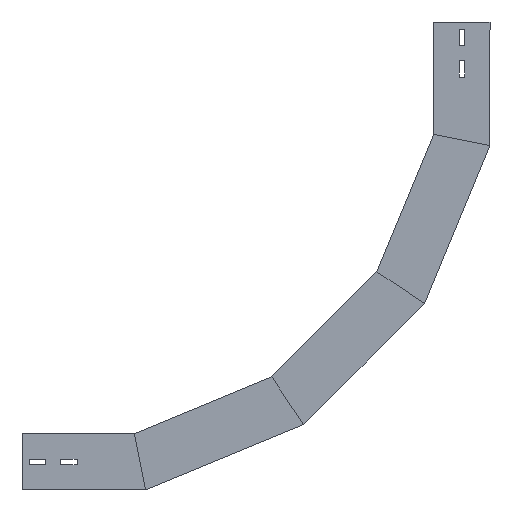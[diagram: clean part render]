
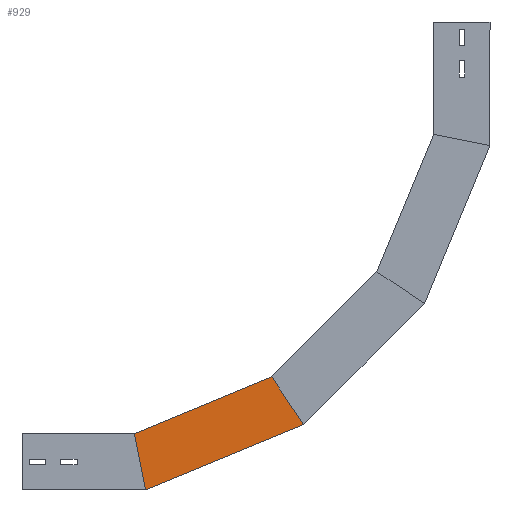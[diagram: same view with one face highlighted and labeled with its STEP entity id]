
A CAD part, left-side view. The second image highlights one B-rep face of the part: STEP entity #929.
In plain terms, the highlighted planar face has unit normal (-1, 0, 0) as drawn and (1, 0, 0) by its records, which use the part's own axes.
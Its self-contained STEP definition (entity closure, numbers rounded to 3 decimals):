
#15 = CARTESIAN_POINT ( 'NONE',  ( 0., 75., -149.682 ) ) ;
#30 = VECTOR ( 'NONE', #1688, 1000. ) ;
#41 = DIRECTION ( 'NONE',  ( 0., -0.981, -0.195 ) ) ;
#99 = LINE ( 'NONE', #1124, #1868 ) ;
#104 = DIRECTION ( 'NONE',  ( -1., 0., 0. ) ) ;
#144 = EDGE_CURVE ( 'NONE', #271, #1493, #99, .T. ) ;
#207 = VECTOR ( 'NONE', #41, 1000. ) ;
#222 = FACE_OUTER_BOUND ( 'NONE', #840, .T. ) ;
#231 = CARTESIAN_POINT ( 'NONE',  ( 0., 69.291, -135.899 ) ) ;
#271 = VERTEX_POINT ( 'NONE', #742 ) ;
#278 = ORIENTED_EDGE ( 'NONE', *, *, #948, .F. ) ;
#352 = ORIENTED_EDGE ( 'NONE', *, *, #1747, .T. ) ;
#609 = AXIS2_PLACEMENT_3D ( 'NONE', #1392, #104, #800 ) ;
#695 = DIRECTION ( 'NONE',  ( 0., -0.831, -0.556 ) ) ;
#742 = CARTESIAN_POINT ( 'NONE',  ( 0., 150.91, -332.945 ) ) ;
#766 = LINE ( 'NONE', #1357, #207 ) ;
#800 = DIRECTION ( 'NONE',  ( 0., 0., 1. ) ) ;
#840 = EDGE_LOOP ( 'NONE', ( #278, #859, #352, #1786 ) ) ;
#859 = ORIENTED_EDGE ( 'NONE', *, *, #866, .T. ) ;
#866 = EDGE_CURVE ( 'NONE', #1457, #1851, #766, .T. ) ;
#929 = ADVANCED_FACE ( 'NONE', ( #222 ), #1678, .F. ) ;
#948 = EDGE_CURVE ( 'NONE', #1457, #271, #1268, .T. ) ;
#989 = DIRECTION ( 'NONE',  ( 0., 0.383, -0.924 ) ) ;
#1071 = VECTOR ( 'NONE', #989, 1000. ) ;
#1124 = CARTESIAN_POINT ( 'NONE',  ( 0., 124.345, -350.696 ) ) ;
#1268 = LINE ( 'NONE', #231, #30 ) ;
#1357 = CARTESIAN_POINT ( 'NONE',  ( 0., 31.495, -158.335 ) ) ;
#1392 = CARTESIAN_POINT ( 'NONE',  ( 0., 0., -164.6 ) ) ;
#1424 = CARTESIAN_POINT ( 'NONE',  ( 0., 0., -164.6 ) ) ;
#1457 = VERTEX_POINT ( 'NONE', #15 ) ;
#1483 = CARTESIAN_POINT ( 'NONE',  ( 0., 87.328, -375.429 ) ) ;
#1493 = VERTEX_POINT ( 'NONE', #1483 ) ;
#1678 = PLANE ( 'NONE',  #609 ) ;
#1688 = DIRECTION ( 'NONE',  ( 0., 0.383, -0.924 ) ) ;
#1747 = EDGE_CURVE ( 'NONE', #1851, #1493, #1817, .T. ) ;
#1786 = ORIENTED_EDGE ( 'NONE', *, *, #144, .F. ) ;
#1817 = LINE ( 'NONE', #1424, #1071 ) ;
#1837 = CARTESIAN_POINT ( 'NONE',  ( 0., 0., -164.6 ) ) ;
#1851 = VERTEX_POINT ( 'NONE', #1837 ) ;
#1868 = VECTOR ( 'NONE', #695, 1000. ) ;
